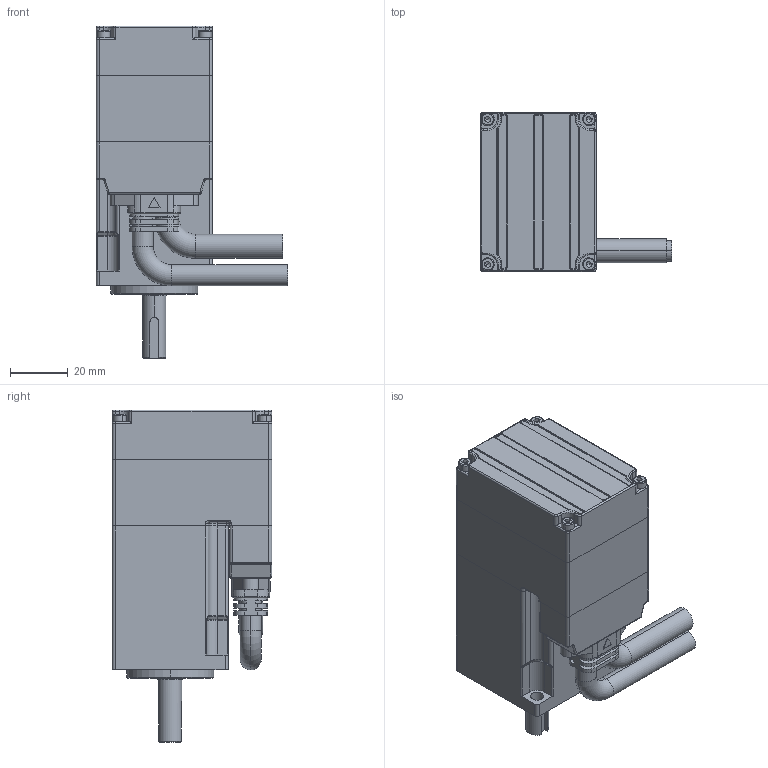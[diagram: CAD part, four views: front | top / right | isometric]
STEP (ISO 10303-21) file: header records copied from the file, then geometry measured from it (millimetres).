
FILE_DESCRIPTION((''),'2;1');
FILE_NAME('ISMK40-DMAK-AA-000','2024-05-24T11:08:29',('RD0060'),(''),'CREO PARAMETRIC BY PTC INC, 2016510','CREO PARAMETRIC BY PTC INC, 2016510','');
FILE_SCHEMA(('CONFIG_CONTROL_DESIGN'));
Length unit declared in the file: millimetre
Products named in the file (1): ISMK40-DMAK-AA-000
Bounding box: 65.95 x 55 x 114.5 mm (x, y, z)
Surface area: 29016.6 mm2 (no closed solid volume)
Topology: 0 solids, 19 shells, 518 faces, 1405 edges, 894 vertices
Faces by surface type: cylinder 207, plane 161, torus 85, cone 38, bspline 23, sphere 4
Entity records: 17249 total; most frequent: CARTESIAN_POINT 3992, DIRECTION 3009, ORIENTED_EDGE 2530, EDGE_CURVE 1393, AXIS2_PLACEMENT_3D 1159, VERTEX_POINT 894, VECTOR 691, LINE 691
